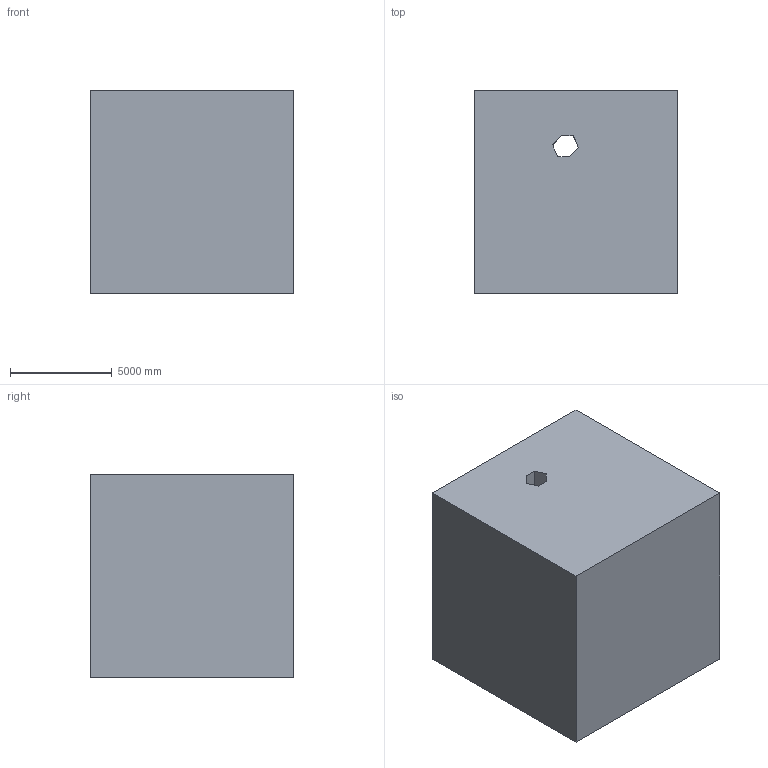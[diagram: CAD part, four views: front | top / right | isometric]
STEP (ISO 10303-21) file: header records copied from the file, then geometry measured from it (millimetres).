
FILE_DESCRIPTION (( 'STEP AP203' ), '1' );
FILE_NAME ('100.STEP', '2022-09-05T15:31:44', ( 'user' ), ( '' ), 'SwSTEP 2.0', 'SolidWorks 2021', '' );
FILE_SCHEMA (( 'CONFIG_CONTROL_DESIGN' ));
Length unit declared in the file: centimetre
Products named in the file (1): 100
Bounding box: 10000 x 10000 x 10000 mm (x, y, z)
Volume: 988492856287.4 mm3; surface area: 651255457.9 mm2
Topology: 1 solids, 1 shells, 16 faces, 39 edges, 26 vertices
Faces by surface type: plane 16
Entity records: 544 total; most frequent: CARTESIAN_POINT 82, ORIENTED_EDGE 78, DIRECTION 73, VECTOR 39, EDGE_CURVE 39, LINE 39, VERTEX_POINT 26, EDGE_LOOP 19
